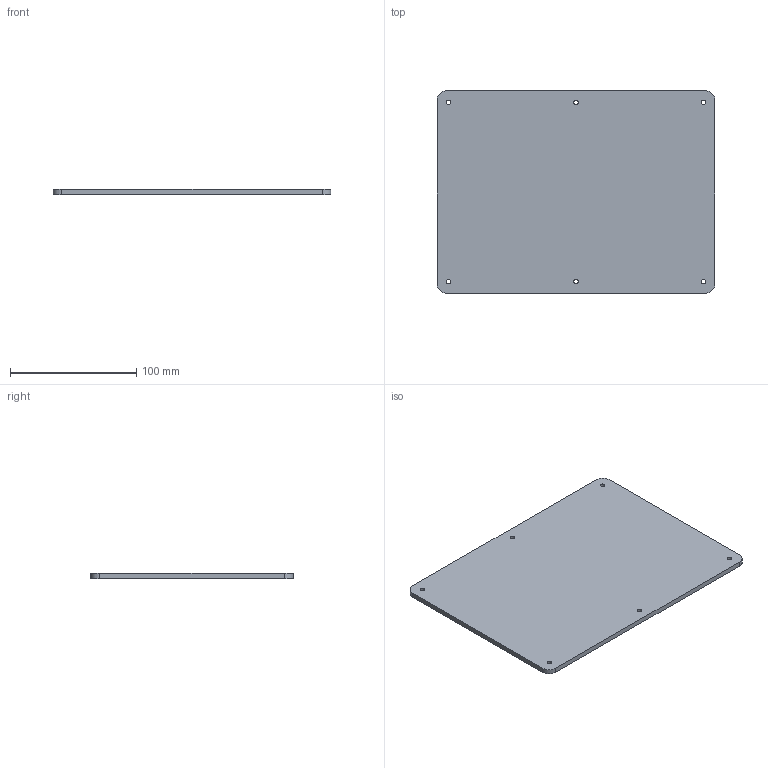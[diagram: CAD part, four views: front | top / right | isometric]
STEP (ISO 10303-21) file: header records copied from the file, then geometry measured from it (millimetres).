
FILE_DESCRIPTION(('FreeCAD Model'),'2;1');
FILE_NAME('Open CASCADE Shape Model','2026-10-19T19:41:49',('FreeCAD'),( 'FreeCAD'),'Open CASCADE STEP processor 7.8','FreeCAD','Unknown');
FILE_SCHEMA(('AUTOMOTIVE_DESIGN { 1 0 10303 214 1 1 1 1 }'));
Length unit declared in the file: millimetre
Products named in the file (1): Open CASCADE STEP translator 7.8 4
Bounding box: 220 x 160 x 4 mm (x, y, z)
Volume: 140400.8 mm3; surface area: 73456.2 mm2
Topology: 1 solids, 1 shells, 16 faces, 42 edges, 28 vertices
Faces by surface type: cylinder 10, plane 6
Full cylindrical faces by diameter (mm): 3.5 x6
Entity records: 540 total; most frequent: DIRECTION 96, CARTESIAN_POINT 87, ORIENTED_EDGE 84, EDGE_CURVE 42, AXIS2_PLACEMENT_3D 37, FACE_BOUND 28, EDGE_LOOP 28, VERTEX_POINT 28
